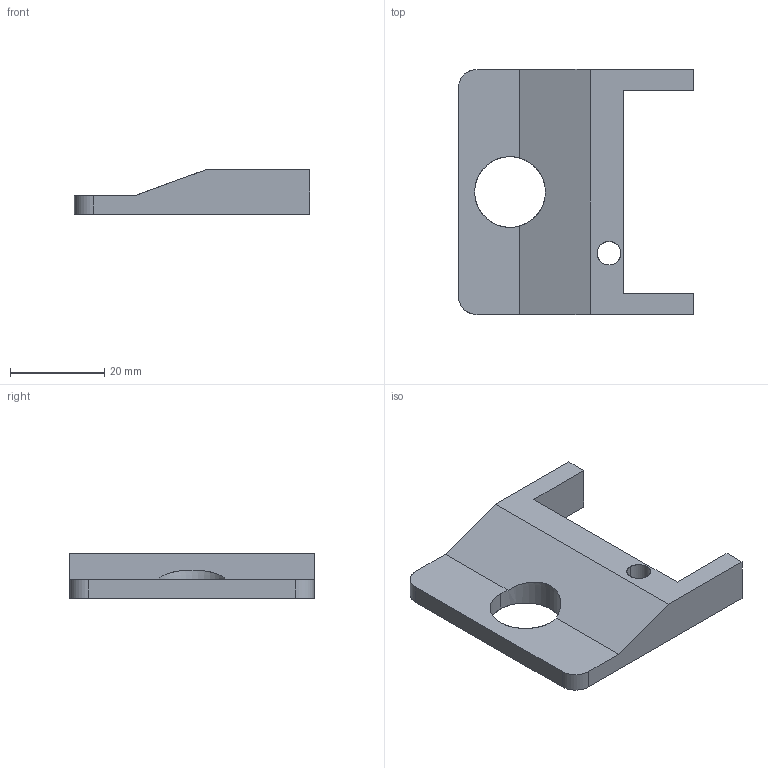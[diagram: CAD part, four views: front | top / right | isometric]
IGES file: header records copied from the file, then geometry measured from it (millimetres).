
Start section: SolidWorks IGES file using analytic representation for surfaces
Global section: file name: Y:\5.更新分\2023年対応\0407_OML微修正分\MVAC110VP\mvac110vp.IGS; native system: SolidWorks 2021; preprocessor: SolidWorks 2021; author: ImaoCorp; date: 230410.143754; units: millimetre
Bounding box: 50 x 52 x 9.5 mm (x, y, z)
Surface area: 5611.5 mm2 (no closed solid volume)
Topology: 0 solids, 0 shells, 18 faces, 261 edges, 261 vertices
Faces by surface type: bspline 12, revolution 6
